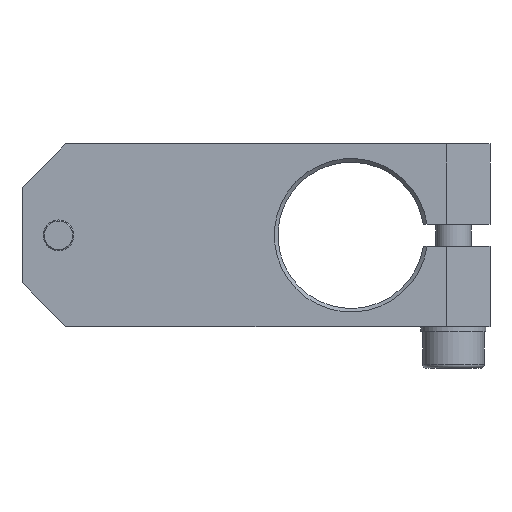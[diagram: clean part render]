
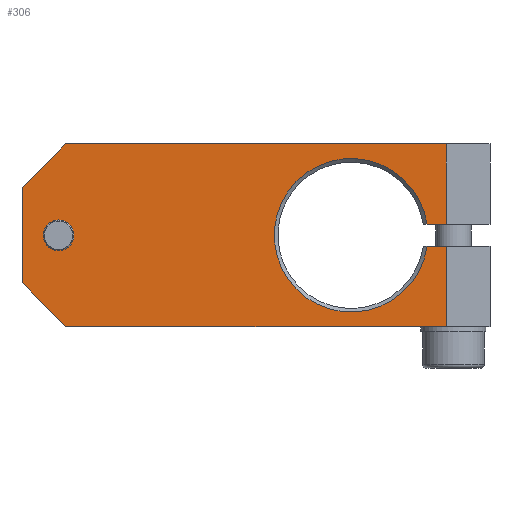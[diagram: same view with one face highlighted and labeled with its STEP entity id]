
A CAD part, front view. The second image highlights one B-rep face of the part: STEP entity #306.
In plain terms, the highlighted planar face has unit normal (0, -1, 0).
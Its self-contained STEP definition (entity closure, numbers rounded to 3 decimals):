
#12 = DIRECTION ( 'NONE',  ( 1., 0., 0. ) ) ;
#32 = ORIENTED_EDGE ( 'NONE', *, *, #64, .T. ) ;
#52 = VERTEX_POINT ( 'NONE', #1894 ) ;
#64 = EDGE_CURVE ( 'NONE', #1737, #1562, #722, .T. ) ;
#76 = LINE ( 'NONE', #672, #1189 ) ;
#103 = CARTESIAN_POINT ( 'NONE',  ( -32., -12.5, 12.5 ) ) ;
#120 = DIRECTION ( 'NONE',  ( 0., 1., 0. ) ) ;
#139 = VECTOR ( 'NONE', #1350, 1000. ) ;
#163 = CARTESIAN_POINT ( 'NONE',  ( 26., -12.5, 12.5 ) ) ;
#186 = DIRECTION ( 'NONE',  ( 0., 0., 1. ) ) ;
#196 = ORIENTED_EDGE ( 'NONE', *, *, #986, .T. ) ;
#288 = DIRECTION ( 'NONE',  ( 0., 0., 1. ) ) ;
#295 = DIRECTION ( 'NONE',  ( -1., 0., 0. ) ) ;
#306 = ADVANCED_FACE ( 'NONE', ( #1320, #1477 ), #1759, .F. ) ;
#326 = EDGE_CURVE ( 'NONE', #955, #52, #434, .T. ) ;
#384 = CARTESIAN_POINT ( 'NONE',  ( 26., -12.5, -12.5 ) ) ;
#413 = DIRECTION ( 'NONE',  ( 0.707, 0., -0.707 ) ) ;
#430 = DIRECTION ( 'NONE',  ( 0., 0., -1. ) ) ;
#434 = LINE ( 'NONE', #1327, #139 ) ;
#438 = VERTEX_POINT ( 'NONE', #1331 ) ;
#456 = EDGE_CURVE ( 'NONE', #759, #771, #568, .T. ) ;
#460 = VECTOR ( 'NONE', #295, 1000. ) ;
#525 = ORIENTED_EDGE ( 'NONE', *, *, #1708, .T. ) ;
#536 = CARTESIAN_POINT ( 'NONE',  ( -26., -12.5, 12.5 ) ) ;
#558 = VECTOR ( 'NONE', #1537, 1000. ) ;
#566 = CARTESIAN_POINT ( 'NONE',  ( -32., -12.5, -6.5 ) ) ;
#568 = LINE ( 'NONE', #103, #1035 ) ;
#593 = CARTESIAN_POINT ( 'NONE',  ( 23.392, -12.5, 1.5 ) ) ;
#595 = EDGE_CURVE ( 'NONE', #1813, #1529, #1095, .T. ) ;
#610 = VECTOR ( 'NONE', #12, 1000. ) ;
#621 = ORIENTED_EDGE ( 'NONE', *, *, #1504, .T. ) ;
#628 = CARTESIAN_POINT ( 'NONE',  ( -26., -12.5, -12.5 ) ) ;
#639 = CARTESIAN_POINT ( 'NONE',  ( -27., -12.5, 0. ) ) ;
#655 = ORIENTED_EDGE ( 'NONE', *, *, #326, .T. ) ;
#661 = VECTOR ( 'NONE', #413, 1000. ) ;
#672 = CARTESIAN_POINT ( 'NONE',  ( 26., -12.5, 12.5 ) ) ;
#712 = CARTESIAN_POINT ( 'NONE',  ( 13., -12.5, 0. ) ) ;
#722 = LINE ( 'NONE', #566, #661 ) ;
#757 = CARTESIAN_POINT ( 'NONE',  ( -32., -12.5, 12.5 ) ) ;
#759 = VERTEX_POINT ( 'NONE', #1076 ) ;
#762 = CARTESIAN_POINT ( 'NONE',  ( 26., -12.5, -1.5 ) ) ;
#771 = VERTEX_POINT ( 'NONE', #163 ) ;
#837 = CIRCLE ( 'NONE', #1923, 10.5 ) ;
#856 = ORIENTED_EDGE ( 'NONE', *, *, #1841, .T. ) ;
#934 = AXIS2_PLACEMENT_3D ( 'NONE', #757, #120, #288 ) ;
#944 = CARTESIAN_POINT ( 'NONE',  ( 26., -12.5, 12.5 ) ) ;
#955 = VERTEX_POINT ( 'NONE', #593 ) ;
#983 = EDGE_CURVE ( 'NONE', #1529, #1847, #1468, .T. ) ;
#986 = EDGE_CURVE ( 'NONE', #1847, #955, #837, .T. ) ;
#989 = DIRECTION ( 'NONE',  ( 0., 0., 1. ) ) ;
#1035 = VECTOR ( 'NONE', #1787, 1000. ) ;
#1054 = CARTESIAN_POINT ( 'NONE',  ( 32., -12.5, -1.5 ) ) ;
#1076 = CARTESIAN_POINT ( 'NONE',  ( -26., -12.5, 12.5 ) ) ;
#1095 = LINE ( 'NONE', #944, #558 ) ;
#1181 = DIRECTION ( 'NONE',  ( 0., 1., 0. ) ) ;
#1189 = VECTOR ( 'NONE', #989, 1000. ) ;
#1218 = ORIENTED_EDGE ( 'NONE', *, *, #456, .F. ) ;
#1224 = EDGE_LOOP ( 'NONE', ( #621 ) ) ;
#1260 = ORIENTED_EDGE ( 'NONE', *, *, #1422, .T. ) ;
#1274 = VERTEX_POINT ( 'NONE', #1441 ) ;
#1279 = ORIENTED_EDGE ( 'NONE', *, *, #983, .T. ) ;
#1290 = ORIENTED_EDGE ( 'NONE', *, *, #1940, .T. ) ;
#1301 = CIRCLE ( 'NONE', #1551, 2.1 ) ;
#1320 = FACE_BOUND ( 'NONE', #1224, .T. ) ;
#1327 = CARTESIAN_POINT ( 'NONE',  ( 32., -12.5, 1.5 ) ) ;
#1331 = CARTESIAN_POINT ( 'NONE',  ( -27., -12.5, 2.1 ) ) ;
#1350 = DIRECTION ( 'NONE',  ( 1., 0., 0. ) ) ;
#1422 = EDGE_CURVE ( 'NONE', #1274, #1737, #1902, .T. ) ;
#1440 = CARTESIAN_POINT ( 'NONE',  ( 23.392, -12.5, -1.5 ) ) ;
#1441 = CARTESIAN_POINT ( 'NONE',  ( -32., -12.5, 6.5 ) ) ;
#1468 = LINE ( 'NONE', #1054, #460 ) ;
#1477 = FACE_OUTER_BOUND ( 'NONE', #1612, .T. ) ;
#1504 = EDGE_CURVE ( 'NONE', #438, #438, #1301, .T. ) ;
#1529 = VERTEX_POINT ( 'NONE', #762 ) ;
#1535 = DIRECTION ( 'NONE',  ( 0., 1., 0. ) ) ;
#1537 = DIRECTION ( 'NONE',  ( 0., 0., 1. ) ) ;
#1551 = AXIS2_PLACEMENT_3D ( 'NONE', #639, #1535, #186 ) ;
#1562 = VERTEX_POINT ( 'NONE', #628 ) ;
#1578 = DIRECTION ( 'NONE',  ( -0.707, 0., -0.707 ) ) ;
#1593 = VECTOR ( 'NONE', #1578, 1000. ) ;
#1599 = LINE ( 'NONE', #536, #1593 ) ;
#1612 = EDGE_LOOP ( 'NONE', ( #1279, #196, #655, #856, #1218, #525, #1260, #32, #1290, #1873 ) ) ;
#1675 = VECTOR ( 'NONE', #430, 1000. ) ;
#1708 = EDGE_CURVE ( 'NONE', #759, #1274, #1599, .T. ) ;
#1737 = VERTEX_POINT ( 'NONE', #1748 ) ;
#1748 = CARTESIAN_POINT ( 'NONE',  ( -32., -12.5, -6.5 ) ) ;
#1759 = PLANE ( 'NONE',  #934 ) ;
#1770 = DIRECTION ( 'NONE',  ( 0., 0., 1. ) ) ;
#1787 = DIRECTION ( 'NONE',  ( 1., 0., 0. ) ) ;
#1813 = VERTEX_POINT ( 'NONE', #384 ) ;
#1814 = CARTESIAN_POINT ( 'NONE',  ( -32., -12.5, -12.5 ) ) ;
#1841 = EDGE_CURVE ( 'NONE', #52, #771, #76, .T. ) ;
#1847 = VERTEX_POINT ( 'NONE', #1440 ) ;
#1873 = ORIENTED_EDGE ( 'NONE', *, *, #595, .T. ) ;
#1894 = CARTESIAN_POINT ( 'NONE',  ( 26., -12.5, 1.5 ) ) ;
#1902 = LINE ( 'NONE', #1928, #1675 ) ;
#1923 = AXIS2_PLACEMENT_3D ( 'NONE', #712, #1181, #1770 ) ;
#1928 = CARTESIAN_POINT ( 'NONE',  ( -32., -12.5, 12.5 ) ) ;
#1935 = LINE ( 'NONE', #1814, #610 ) ;
#1940 = EDGE_CURVE ( 'NONE', #1562, #1813, #1935, .T. ) ;
